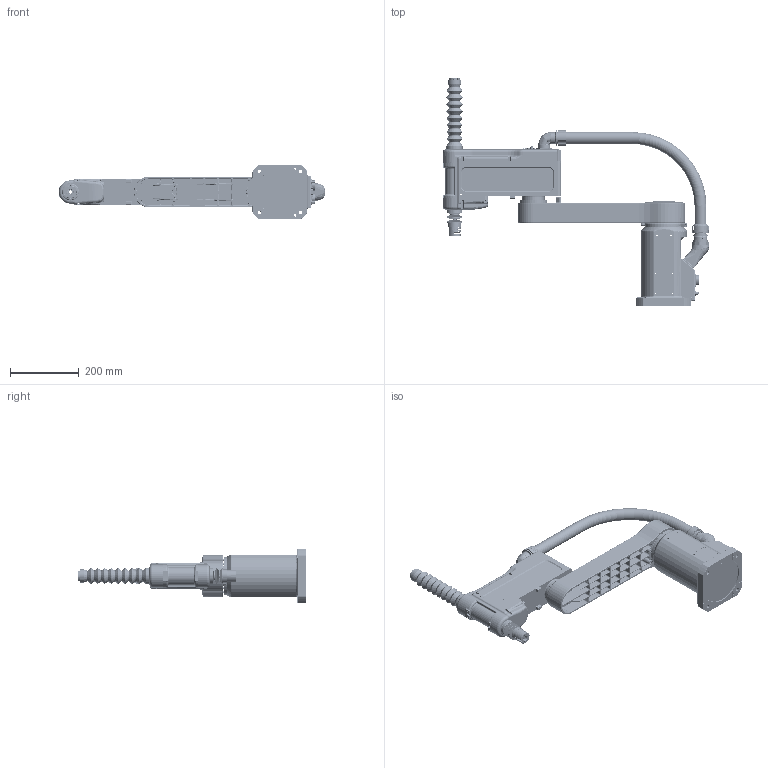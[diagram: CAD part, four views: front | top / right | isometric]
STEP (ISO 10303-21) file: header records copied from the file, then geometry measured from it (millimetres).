
FILE_DESCRIPTION (( 'STEP AP214' ), '1' );
FILE_NAME ('R4-0406F 3D耀倰.STEP', '2023-06-08T08:51:45', ( 'iCura' ), ( 'ICOS' ), 'SwSTEP 2.0', 'SolidWorks 2018', '' );
FILE_SCHEMA (( 'AUTOMOTIVE_DESIGN' ));
Length unit declared in the file: millimetre
Products named in the file (7): R4-0406F 3D耀倰; R4-0404-1-00; 疏恇奪R4-0406; 软管接头_1; R4-0404F-4-00_300; R4-0406-2-00_S400; R4-0404-3-00 J3粣 
Assembly tree (6 placements, depth 2):
  R4-0406F 3D耀倰
    R4-0404-1-00
    R4-0406-2-00_S400
    R4-0404-3-00 J3粣 
    R4-0404F-4-00_300
    软管接头_1
    疏恇奪R4-0406
Bounding box: 775.65 x 663.5 x 160 mm (x, y, z)
Volume: 199526.8 mm3; surface area: 1121795.4 mm2
Topology: 2 solids, 377 shells, 3010 faces, 10297 edges, 7411 vertices
Faces by surface type: cylinder 1193, plane 895, cone 366, torus 284, bspline 242, sphere 30
Full cylindrical faces by diameter (mm): 1 x18, 2.5 x20, 2.6 x1, 3.2 x8, 3.242 x2, 3.3 x26, 3.4 x27, 3.5 x30, 4 x18, 4.2 x6, 4.5 x38, 5 x4, 5.5 x6, 6 x7, 6.5 x8, 7 x10, 8 x10, 9 x9, 10 x1, 13 x2, 14 x1, 16 x1, 16.5 x1, 26 x1, 28.2 x2, 29 x2, 30 x4, 30.2 x1, 32 x3, 33 x2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
Entity records: 172784 total; most frequent: CARTESIAN_POINT 56113, DIRECTION 17838, ORIENTED_EDGE 14722, EDGE_CURVE 9372, AXIS2_PLACEMENT_3D 7223, VERTEX_POINT 7213, CIRCLE 4445, EDGE_LOOP 4267
